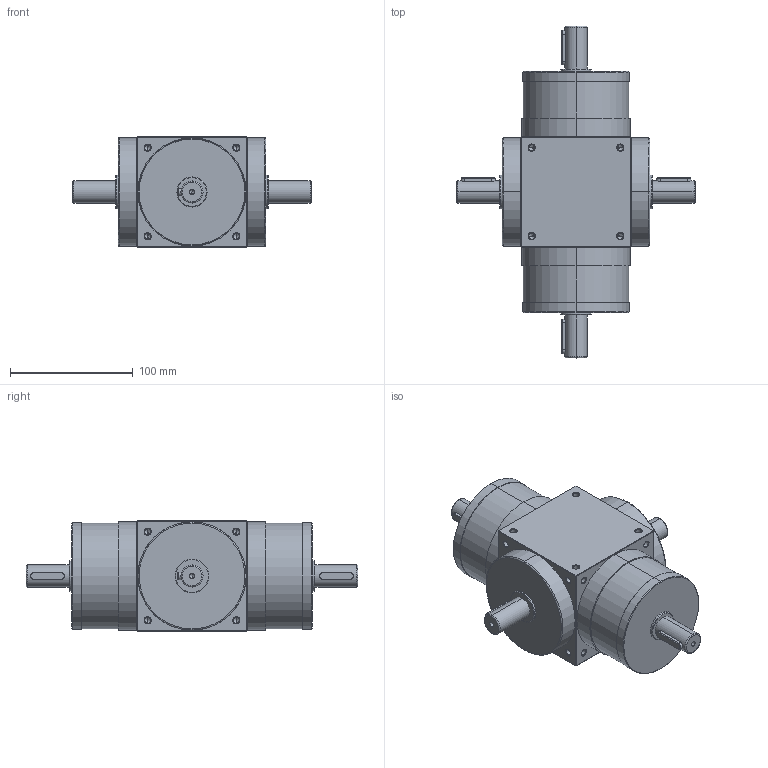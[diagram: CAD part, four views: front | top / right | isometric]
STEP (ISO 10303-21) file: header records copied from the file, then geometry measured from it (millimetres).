
FILE_DESCRIPTION (( 'STEP AP214' ), '1' );
FILE_NAME ('AT090-L-001.STEP', '2020-12-09T03:24:00', ( '微软用户' ), ( '微软中国' ), 'SwSTEP 2.0', 'SolidWorks 2014', '' );
FILE_SCHEMA (( 'AUTOMOTIVE_DESIGN' ));
Length unit declared in the file: millimetre
Products named in the file (2): AT090-L-001
Bounding box: 194 x 270 x 90 mm (x, y, z)
Volume: 1572117.3 mm3; surface area: 111388.4 mm2
Topology: 2 solids, 2 shells, 343 faces, 860 edges, 480 vertices
Faces by surface type: cylinder 144, cone 124, plane 63, bspline 12
Entity records: 13516 total; most frequent: CARTESIAN_POINT 2573, ORIENTED_EDGE 1608, DIRECTION 1558, EDGE_CURVE 804, AXIS2_PLACEMENT_3D 601, VERTEX_POINT 480, EDGE_LOOP 390, VECTOR 356
